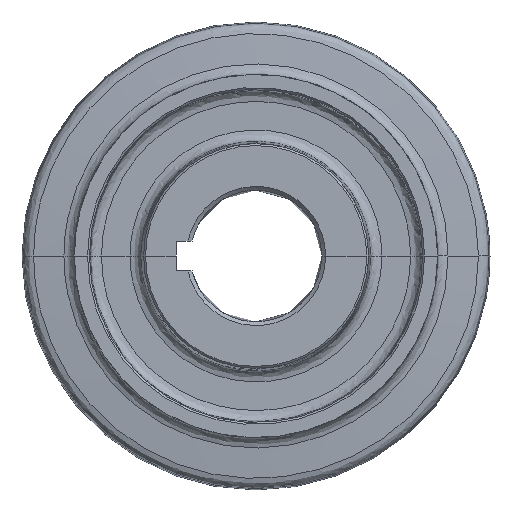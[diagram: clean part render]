
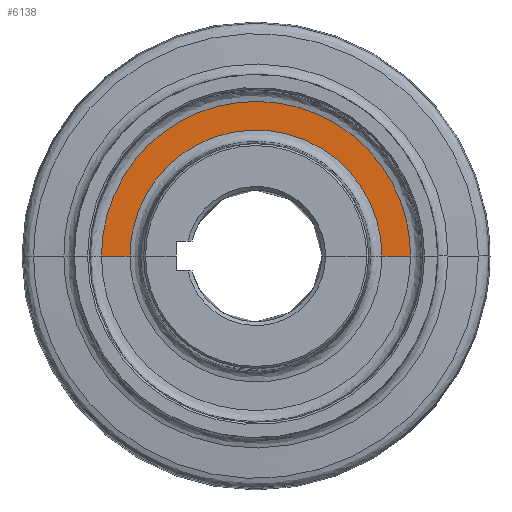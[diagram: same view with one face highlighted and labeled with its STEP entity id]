
A CAD part, left-side view. The second image highlights one B-rep face of the part: STEP entity #6138.
In plain terms, the highlighted planar face has unit normal (-1, 0, 0).
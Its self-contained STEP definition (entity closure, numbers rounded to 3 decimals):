
#3 = EDGE_CURVE ( 'NONE', #5922, #5923, #918, .T. ) ;
#35 = AXIS2_PLACEMENT_3D ( 'NONE', #7872, #8257, #8258 ) ;
#66 = EDGE_CURVE ( 'NONE', #5878, #5922, #5283, .T. ) ;
#72 = EDGE_CURVE ( 'NONE', #5873, #5878, #924, .T. ) ;
#918 = B_SPLINE_CURVE_WITH_KNOTS ( 'NONE', 3,
 ( #5850, #5926, #5927, #5928, #5929, #5930, #5931, #5932, #5933, #5934, #5935, #5936, #5937, #5938, #5939, #5940, #5941, #5942, #5943 ),
 .UNSPECIFIED., .F., .F.,
 ( 4, 3, 3, 3, 3, 3, 4 ),
 ( 0., 0.167, 0.333, 0.5, 0.667, 0.833, 1. ),
 .UNSPECIFIED. ) ;
#924 = B_SPLINE_CURVE_WITH_KNOTS ( 'NONE', 3,
 ( #6288, #6322, #6323, #6324, #6325, #6326, #6327, #6328, #6329, #6330, #6331, #6332, #6333, #6334, #6335, #6336, #6337, #6338, #6339 ),
 .UNSPECIFIED., .F., .F.,
 ( 4, 3, 3, 3, 3, 3, 4 ),
 ( 0., 0.167, 0.333, 0.5, 0.667, 0.833, 1. ),
 .UNSPECIFIED. ) ;
#5251 = LINE ( 'NONE', #6563, #5254 ) ;
#5254 = VECTOR ( 'NONE', #6564, 1000. ) ;
#5283 = LINE ( 'NONE', #6282, #5290 ) ;
#5290 = VECTOR ( 'NONE', #6283, 1000. ) ;
#5340 = FACE_OUTER_BOUND ( 'NONE', #5560, .T. ) ;
#5560 = EDGE_LOOP ( 'NONE', ( #5640, #5641, #5642, #5643 ) ) ;
#5640 = ORIENTED_EDGE ( 'NONE', *, *, #3, .F. ) ;
#5641 = ORIENTED_EDGE ( 'NONE', *, *, #66, .F. ) ;
#5642 = ORIENTED_EDGE ( 'NONE', *, *, #72, .F. ) ;
#5643 = ORIENTED_EDGE ( 'NONE', *, *, #5757, .F. ) ;
#5757 = EDGE_CURVE ( 'NONE', #5923, #5873, #5251, .T. ) ;
#5850 = CARTESIAN_POINT ( 'NONE',  ( -5., 41.273, 0. ) ) ;
#5873 = VERTEX_POINT ( 'NONE', #7628 ) ;
#5878 = VERTEX_POINT ( 'NONE', #7633 ) ;
#5922 = VERTEX_POINT ( 'NONE', #7676 ) ;
#5923 = VERTEX_POINT ( 'NONE', #7677 ) ;
#5926 = CARTESIAN_POINT ( 'NONE',  ( -5., 41.273, 7.245 ) ) ;
#5927 = CARTESIAN_POINT ( 'NONE',  ( -5., 39.366, 14.362 ) ) ;
#5928 = CARTESIAN_POINT ( 'NONE',  ( -5., 35.743, 20.636 ) ) ;
#5929 = CARTESIAN_POINT ( 'NONE',  ( -5., 32.121, 26.911 ) ) ;
#5930 = CARTESIAN_POINT ( 'NONE',  ( -5., 26.911, 32.121 ) ) ;
#5931 = CARTESIAN_POINT ( 'NONE',  ( -5., 20.636, 35.743 ) ) ;
#5932 = CARTESIAN_POINT ( 'NONE',  ( -5., 14.362, 39.366 ) ) ;
#5933 = CARTESIAN_POINT ( 'NONE',  ( -5., 7.245, 41.273 ) ) ;
#5934 = CARTESIAN_POINT ( 'NONE',  ( -5., 0., 41.273 ) ) ;
#5935 = CARTESIAN_POINT ( 'NONE',  ( -5., -7.245, 41.273 ) ) ;
#5936 = CARTESIAN_POINT ( 'NONE',  ( -5., -14.362, 39.366 ) ) ;
#5937 = CARTESIAN_POINT ( 'NONE',  ( -5., -20.636, 35.743 ) ) ;
#5938 = CARTESIAN_POINT ( 'NONE',  ( -5., -26.911, 32.121 ) ) ;
#5939 = CARTESIAN_POINT ( 'NONE',  ( -5., -32.121, 26.911 ) ) ;
#5940 = CARTESIAN_POINT ( 'NONE',  ( -5., -35.743, 20.636 ) ) ;
#5941 = CARTESIAN_POINT ( 'NONE',  ( -5., -39.366, 14.362 ) ) ;
#5942 = CARTESIAN_POINT ( 'NONE',  ( -5., -41.273, 7.245 ) ) ;
#5943 = CARTESIAN_POINT ( 'NONE',  ( -5., -41.273, 0. ) ) ;
#6138 = ADVANCED_FACE ( 'NONE', ( #5340 ), #8255, .F. ) ;
#6282 = CARTESIAN_POINT ( 'NONE',  ( -5., 37.452, 0. ) ) ;
#6283 = DIRECTION ( 'NONE',  ( 0., 1., 0. ) ) ;
#6288 = CARTESIAN_POINT ( 'NONE',  ( -5., -33.63, 0. ) ) ;
#6322 = CARTESIAN_POINT ( 'NONE',  ( -5., -33.63, 5.903 ) ) ;
#6323 = CARTESIAN_POINT ( 'NONE',  ( -5., -32.076, 11.703 ) ) ;
#6324 = CARTESIAN_POINT ( 'NONE',  ( -5., -29.125, 16.815 ) ) ;
#6325 = CARTESIAN_POINT ( 'NONE',  ( -5., -26.173, 21.928 ) ) ;
#6326 = CARTESIAN_POINT ( 'NONE',  ( -5., -21.928, 26.173 ) ) ;
#6327 = CARTESIAN_POINT ( 'NONE',  ( -5., -16.815, 29.125 ) ) ;
#6328 = CARTESIAN_POINT ( 'NONE',  ( -5., -11.703, 32.076 ) ) ;
#6329 = CARTESIAN_POINT ( 'NONE',  ( -5., -5.903, 33.63 ) ) ;
#6330 = CARTESIAN_POINT ( 'NONE',  ( -5., 0., 33.63 ) ) ;
#6331 = CARTESIAN_POINT ( 'NONE',  ( -5., 5.903, 33.63 ) ) ;
#6332 = CARTESIAN_POINT ( 'NONE',  ( -5., 11.703, 32.076 ) ) ;
#6333 = CARTESIAN_POINT ( 'NONE',  ( -5., 16.815, 29.125 ) ) ;
#6334 = CARTESIAN_POINT ( 'NONE',  ( -5., 21.928, 26.173 ) ) ;
#6335 = CARTESIAN_POINT ( 'NONE',  ( -5., 26.173, 21.928 ) ) ;
#6336 = CARTESIAN_POINT ( 'NONE',  ( -5., 29.125, 16.815 ) ) ;
#6337 = CARTESIAN_POINT ( 'NONE',  ( -5., 32.076, 11.703 ) ) ;
#6338 = CARTESIAN_POINT ( 'NONE',  ( -5., 33.63, 5.903 ) ) ;
#6339 = CARTESIAN_POINT ( 'NONE',  ( -5., 33.63, 0. ) ) ;
#6563 = CARTESIAN_POINT ( 'NONE',  ( -5., -37.452, 0. ) ) ;
#6564 = DIRECTION ( 'NONE',  ( 0., 1., 0. ) ) ;
#7628 = CARTESIAN_POINT ( 'NONE',  ( -5., -33.63, 0. ) ) ;
#7633 = CARTESIAN_POINT ( 'NONE',  ( -5., 33.63, 0. ) ) ;
#7676 = CARTESIAN_POINT ( 'NONE',  ( -5., 41.273, 0. ) ) ;
#7677 = CARTESIAN_POINT ( 'NONE',  ( -5., -41.273, 0. ) ) ;
#7872 = CARTESIAN_POINT ( 'NONE',  ( -5., 41.273, 0. ) ) ;
#8255 = PLANE ( 'NONE',  #35 ) ;
#8257 = DIRECTION ( 'NONE',  ( 1., 0., 0. ) ) ;
#8258 = DIRECTION ( 'NONE',  ( 0., -1., 0. ) ) ;
